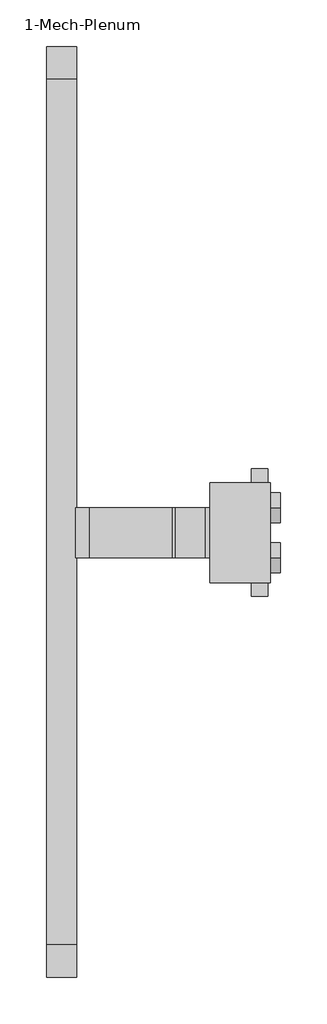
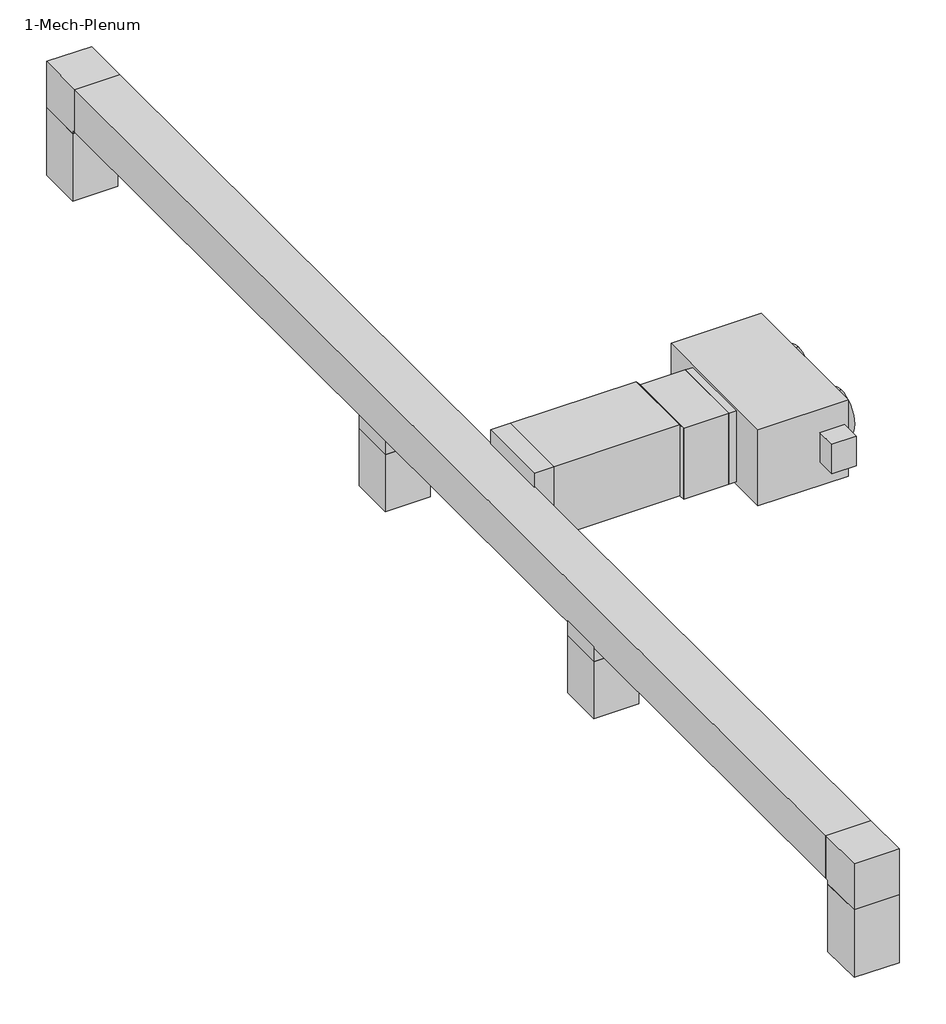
# One storey: 7 duct segments, 6 duct fittings, 1 proxy.
"""IFC4 building model written with IfcOpenShell, lengths in millimetres."""

from ifc_helpers import new_model, si_unit, frame, origin, place, context, project, spatial, polyline, outline, extrude, transform, mapped, element, save
from components import proxy_a372933c, rectangular_elbow_mitered_standard_4ff1c4e8, rectangular_takeoff_standard_087f681d, rectangular_takeoff_standard_8aed40d7, rectangular_transition_angle_45_degree_e8488e1d

model = new_model("IFC4")

# Units and contexts
model_context = context("Model", 3, world=origin())
ifc_project = project(units=[si_unit("LENGTHUNIT", "METRE", prefix="MILLI")], contexts=[model_context])

# Site, building, storey
site = spatial("IfcSite", under=ifc_project)
building = spatial("IfcBuilding", under=site)
storey = spatial("IfcBuildingStorey", under=building, Name="1-Mech-Plenum", Elevation=2514.6)

# Proxy
placement = place(None, origin())
proxy_shape = proxy_a372933c(model_context)
element("IfcBuildingElementProxy", 1, Name="VAV Unit - Dual Duct : 12'x12\"", ObjectType="VAV Unit - Dual Duct : 12'x12\"", at=placement, inside=storey, context=model_context, shape_type="MappedRepresentation", body=[
    mapped(proxy_shape, transform((-23188.568061, 5363.8463778, 2971.8), x_axis=(-1.0, 0.0, 0.0), y_axis=(0.0, -1.0, 0.0), z_axis=(0.0, 0.0, 1.0))),
])

# Duct fittings
rectangular_elbow_mitered_standard_shape = rectangular_elbow_mitered_standard_4ff1c4e8(model_context)
element("IfcDuctFitting", 2, ObjectType="Rectangular Elbow - Mitered : Standard", at=placement, inside=storey, context=model_context, shape_type="MappedRepresentation", body=[
    mapped(rectangular_elbow_mitered_standard_shape, transform((-25309.6859678, 1001.7709948, 3276.6), x_axis=(0.0, 0.0, 1.0), y_axis=(0.0, 1.0, 0.0), z_axis=(-1.0, 0.0, 0.0))),
])
element("IfcDuctFitting", 3, ObjectType="Rectangular Elbow - Mitered : Standard", at=placement, inside=storey, context=model_context, shape_type="MappedRepresentation", body=[
    mapped(rectangular_elbow_mitered_standard_shape, transform((-25309.6859678, 10145.7709948, 3276.6), x_axis=(0.0, 1.0, 0.0), y_axis=(0.0, 0.0, -1.0), z_axis=(-1.0, 0.0, 0.0))),
])
rectangular_takeoff_standard_shape = rectangular_takeoff_standard_087f681d(model_context)
element("IfcDuctFitting", 4, ObjectType="Rectangular Takeoff : Standard", at=placement, inside=storey, context=model_context, shape_type="MappedRepresentation", body=[
    mapped(rectangular_takeoff_standard_shape, transform((-25309.6859678, 6488.1709948, 3124.2), x_axis=(0.0, 0.0, -1.0), y_axis=(1.0, 0.0, 0.0), z_axis=(0.0, -1.0, 0.0))),
])
element("IfcDuctFitting", 5, ObjectType="Rectangular Takeoff : Standard", at=placement, inside=storey, context=model_context, shape_type="MappedRepresentation", body=[
    mapped(rectangular_takeoff_standard_shape, transform((-25309.6859678, 4049.7709948, 3124.2), x_axis=(0.0, 0.0, -1.0), y_axis=(1.0, 0.0, 0.0), z_axis=(0.0, -1.0, 0.0))),
])
rectangular_takeoff_standard_2_shape = rectangular_takeoff_standard_8aed40d7(model_context)
element("IfcDuctFitting", 6, ObjectType="Rectangular Takeoff : Standard", at=placement, inside=storey, context=model_context, shape_type="MappedRepresentation", body=[
    mapped(rectangular_takeoff_standard_2_shape, transform((-25157.2859678, 5363.8463778, 3276.6), x_axis=(1.0, 0.0, 0.0), y_axis=(0.0, -1.0, 0.0), z_axis=(0.0, 0.0, -1.0))),
])
rectangular_transition_angle_45_degree_shape = rectangular_transition_angle_45_degree_e8488e1d(model_context)
element("IfcDuctFitting", 7, ObjectType="Rectangular Transition - Angle : 45 Degree", at=placement, inside=storey, context=model_context, shape_type="MappedRepresentation", body=[
    mapped(rectangular_transition_angle_45_degree_shape, transform((-24153.7680508, 5363.8463778, 3244.85), x_axis=(-1.0, 0.0, 0.0), y_axis=(0.0, -1.0, 0.0), z_axis=(0.0, 0.0, 1.0))),
])

# Duct segments
element("IfcDuctSegment", 8, ObjectType="Mitered Elbows / Taps", at=placement, inside=storey, context=model_context, shape_type="SweptSolid", body=[
    extrude(outline(polyline([(-25157.2859678, 6640.5709948), (-25157.2859678, 6335.7709948), (-25462.0859678, 6335.7709948), (-25462.0859678, 6640.5709948), (-25157.2859678, 6640.5709948)])), frame((0.0, 0.0, 2616.4523776), z_axis=(0.0, 0.0, 1.0), x_axis=(1.0, 0.0, 0.0)), (0.0, 0.0, 1.0), 406.1476224),
])
element("IfcDuctSegment", 9, ObjectType="Mitered Elbows / Taps", at=placement, inside=storey, context=model_context, shape_type="SweptSolid", body=[
    extrude(outline(polyline([(-25157.2859678, 4202.1709948), (-25157.2859678, 3897.3709948), (-25462.0859678, 3897.3709948), (-25462.0859678, 4202.1709948), (-25157.2859678, 4202.1709948)])), frame((0.0, 0.0, 2616.4523776), z_axis=(0.0, 0.0, 1.0), x_axis=(1.0, 0.0, 0.0)), (0.0, 0.0, 1.0), 406.1476224),
])
element("IfcDuctSegment", 10, ObjectType="Mitered Elbows / Taps", at=placement, inside=storey, context=model_context, shape_type="SweptSolid", body=[
    extrude(outline(polyline([(-25157.2859678, 1179.5709948), (-25462.0859678, 1179.5709948), (-25462.0859678, 9967.9709948), (-25157.2859678, 9967.9709948), (-25157.2859678, 1179.5709948)])), frame((0.0, 0.0, 3124.2), z_axis=(0.0, 0.0, 1.0), x_axis=(1.0, 0.0, 0.0)), (0.0, 0.0, 1.0), 304.8),
])
element("IfcDuctSegment", 11, ObjectType="Mitered Elbows / Taps", at=placement, inside=storey, context=model_context, shape_type="SweptSolid", body=[
    extrude(outline(polyline([(-25462.0859678, 1154.1709948), (-25157.2859678, 1154.1709948), (-25157.2859678, 849.3709948), (-25462.0859678, 849.3709948), (-25462.0859678, 1154.1709948)])), frame((0.0, 0.0, 2616.4523776), z_axis=(0.0, 0.0, 1.0), x_axis=(1.0, 0.0, 0.0)), (0.0, 0.0, 1.0), 482.3476224),
])
element("IfcDuctSegment", 12, ObjectType="Mitered Elbows / Taps", at=placement, inside=storey, context=model_context, shape_type="SweptSolid", body=[
    extrude(outline(polyline([(-23848.968061, 5617.8463778), (-23848.968061, 5109.8463778), (-24153.7680508, 5109.8463778), (-24153.7680508, 5617.8463778), (-23848.968061, 5617.8463778)])), frame((0.0, 0.0, 2990.85), z_axis=(0.0, 0.0, 1.0), x_axis=(1.0, 0.0, 0.0)), (0.0, 0.0, 1.0), 508.0),
])
element("IfcDuctSegment", 13, ObjectType="Mitered Elbows / Taps", at=placement, inside=storey, context=model_context, shape_type="SweptSolid", body=[
    extrude(outline(polyline([(-25030.2859678, 5109.8463778), (-25030.2859678, 5617.8463778), (-24179.1680508, 5617.8463778), (-24179.1680508, 5109.8463778), (-25030.2859678, 5109.8463778)])), frame((0.0, 0.0, 3022.6), z_axis=(0.0, 0.0, 1.0), x_axis=(1.0, 0.0, 0.0)), (0.0, 0.0, 1.0), 508.0),
])
element("IfcDuctSegment", 14, ObjectType="Radius Elbows / Taps", at=placement, inside=storey, context=model_context, shape_type="SweptSolid", body=[
    extrude(outline(polyline([(-25157.2859678, 10298.1709948), (-25157.2859678, 9993.3709948), (-25462.0859678, 9993.3709948), (-25462.0859678, 10298.1709948), (-25157.2859678, 10298.1709948)])), frame((0.0, 0.0, 2616.4523776), z_axis=(0.0, 0.0, 1.0), x_axis=(1.0, 0.0, 0.0)), (0.0, 0.0, 1.0), 482.3476224),
])

save(model, "model.ifc")
